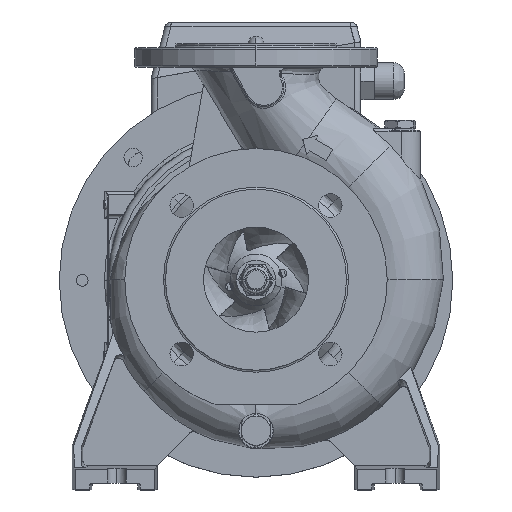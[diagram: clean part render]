
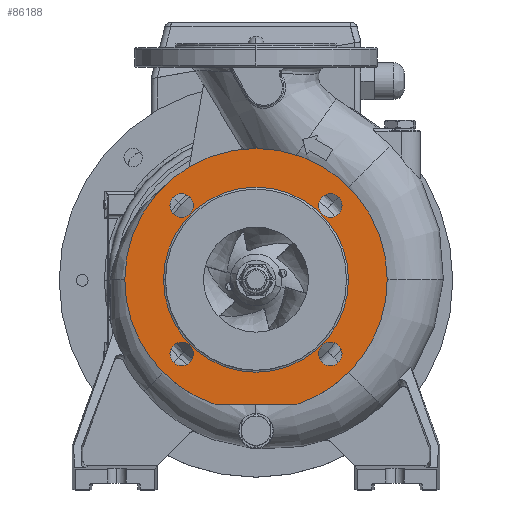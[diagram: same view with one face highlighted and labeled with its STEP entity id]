
A CAD part, top view. The second image highlights one B-rep face of the part: STEP entity #86188.
In plain terms, the highlighted planar face has unit normal (0, 0, 1).
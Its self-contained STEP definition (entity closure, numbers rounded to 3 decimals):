
#444 = DIRECTION ( 'NONE',  ( 0., 0., 1. ) ) ;
#927 = CARTESIAN_POINT ( 'NONE',  ( -47.569, -56.569, 97. ) ) ;
#1792 = VERTEX_POINT ( 'NONE', #20269 ) ;
#3043 = FACE_OUTER_BOUND ( 'NONE', #32500, .T. ) ;
#3193 = AXIS2_PLACEMENT_3D ( 'NONE', #49782, #71192, #28640 ) ;
#3739 = EDGE_LOOP ( 'NONE', ( #32356, #44044 ) ) ;
#3826 = EDGE_CURVE ( 'NONE', #15417, #1792, #81852, .T. ) ;
#4005 = VERTEX_POINT ( 'NONE', #87911 ) ;
#4208 = FACE_BOUND ( 'NONE', #76262, .T. ) ;
#4697 = DIRECTION ( 'NONE',  ( 1., 0., 0. ) ) ;
#6004 = VERTEX_POINT ( 'NONE', #18664 ) ;
#7691 = VERTEX_POINT ( 'NONE', #66332 ) ;
#8929 = CARTESIAN_POINT ( 'NONE',  ( 56.569, 56.569, 97. ) ) ;
#9372 = ORIENTED_EDGE ( 'NONE', *, *, #3826, .T. ) ;
#10088 = CARTESIAN_POINT ( 'NONE',  ( 56.569, -56.569, 97. ) ) ;
#10778 = ORIENTED_EDGE ( 'NONE', *, *, #88065, .T. ) ;
#11471 = ORIENTED_EDGE ( 'NONE', *, *, #23206, .F. ) ;
#11658 = DIRECTION ( 'NONE',  ( 0., 0., 1. ) ) ;
#12071 = FACE_BOUND ( 'NONE', #83872, .T. ) ;
#12297 = VECTOR ( 'NONE', #51473, 1000. ) ;
#13838 = CARTESIAN_POINT ( 'NONE',  ( 65.569, -56.569, 97. ) ) ;
#13987 = EDGE_CURVE ( 'NONE', #4005, #43056, #36189, .T. ) ;
#14428 = DIRECTION ( 'NONE',  ( 0., 0., 1. ) ) ;
#15260 = DIRECTION ( 'NONE',  ( 1., 0., 0. ) ) ;
#15417 = VERTEX_POINT ( 'NONE', #91272 ) ;
#15528 = AXIS2_PLACEMENT_3D ( 'NONE', #54577, #25585, #40035 ) ;
#16826 = EDGE_CURVE ( 'NONE', #43056, #4005, #28008, .T. ) ;
#17289 = DIRECTION ( 'NONE',  ( 1., 0., 0. ) ) ;
#17406 = CIRCLE ( 'NONE', #54562, 9. ) ;
#18664 = CARTESIAN_POINT ( 'NONE',  ( 100., 0., 97. ) ) ;
#18850 = DIRECTION ( 'NONE',  ( 0., 0., -1. ) ) ;
#20269 = CARTESIAN_POINT ( 'NONE',  ( 70.5, 0., 97. ) ) ;
#20972 = CARTESIAN_POINT ( 'NONE',  ( 56.569, -56.569, 97. ) ) ;
#21878 = AXIS2_PLACEMENT_3D ( 'NONE', #59944, #60271, #74780 ) ;
#22041 = VERTEX_POINT ( 'NONE', #66891 ) ;
#22605 = ORIENTED_EDGE ( 'NONE', *, *, #42262, .T. ) ;
#23206 = EDGE_CURVE ( 'NONE', #67701, #75814, #26682, .T. ) ;
#23700 = EDGE_CURVE ( 'NONE', #75814, #6004, #88794, .T. ) ;
#24404 = FACE_BOUND ( 'NONE', #27493, .T. ) ;
#25585 = DIRECTION ( 'NONE',  ( 0., 0., -1. ) ) ;
#26157 = VERTEX_POINT ( 'NONE', #90979 ) ;
#26682 = CIRCLE ( 'NONE', #84468, 100. ) ;
#26770 = EDGE_CURVE ( 'NONE', #45457, #26157, #17406, .T. ) ;
#27493 = EDGE_LOOP ( 'NONE', ( #37128, #73621 ) ) ;
#28008 = CIRCLE ( 'NONE', #60027, 9. ) ;
#28546 = CIRCLE ( 'NONE', #30214, 9. ) ;
#28640 = DIRECTION ( 'NONE',  ( -1., 0., 0. ) ) ;
#28888 = FACE_BOUND ( 'NONE', #3739, .T. ) ;
#29377 = CARTESIAN_POINT ( 'NONE',  ( -56.569, 56.569, 97. ) ) ;
#30054 = EDGE_CURVE ( 'NONE', #26157, #45457, #48662, .T. ) ;
#30214 = AXIS2_PLACEMENT_3D ( 'NONE', #20972, #444, #85848 ) ;
#31038 = DIRECTION ( 'NONE',  ( -1., 0., 0. ) ) ;
#32078 = CIRCLE ( 'NONE', #21878, 70.5 ) ;
#32356 = ORIENTED_EDGE ( 'NONE', *, *, #91921, .F. ) ;
#32500 = EDGE_LOOP ( 'NONE', ( #11471, #22605, #41513, #59373 ) ) ;
#32822 = DIRECTION ( 'NONE',  ( -1., 0., 0. ) ) ;
#33280 = DIRECTION ( 'NONE',  ( -1., 0., 0. ) ) ;
#36189 = CIRCLE ( 'NONE', #88332, 9. ) ;
#36608 = CARTESIAN_POINT ( 'NONE',  ( 70.5, -95., 97. ) ) ;
#37128 = ORIENTED_EDGE ( 'NONE', *, *, #30054, .F. ) ;
#37983 = CARTESIAN_POINT ( 'NONE',  ( 0., 0., 97. ) ) ;
#38598 = DIRECTION ( 'NONE',  ( 0., 0., -1. ) ) ;
#38616 = AXIS2_PLACEMENT_3D ( 'NONE', #55216, #39450, #32822 ) ;
#38684 = DIRECTION ( 'NONE',  ( 0., 0., 1. ) ) ;
#39450 = DIRECTION ( 'NONE',  ( 0., 0., -1. ) ) ;
#40035 = DIRECTION ( 'NONE',  ( -1., 0., 0. ) ) ;
#40860 = CIRCLE ( 'NONE', #48689, 9. ) ;
#41513 = ORIENTED_EDGE ( 'NONE', *, *, #51794, .F. ) ;
#42181 = EDGE_CURVE ( 'NONE', #22041, #90791, #78775, .T. ) ;
#42262 = EDGE_CURVE ( 'NONE', #67701, #7691, #50576, .T. ) ;
#43016 = AXIS2_PLACEMENT_3D ( 'NONE', #43245, #57719, #58338 ) ;
#43041 = DIRECTION ( 'NONE',  ( 1., 0., 0. ) ) ;
#43056 = VERTEX_POINT ( 'NONE', #67344 ) ;
#43245 = CARTESIAN_POINT ( 'NONE',  ( -56.569, -56.569, 97. ) ) ;
#44044 = ORIENTED_EDGE ( 'NONE', *, *, #42181, .F. ) ;
#45457 = VERTEX_POINT ( 'NONE', #72814 ) ;
#46297 = AXIS2_PLACEMENT_3D ( 'NONE', #8929, #59258, #66846 ) ;
#47861 = CARTESIAN_POINT ( 'NONE',  ( -56.569, 56.569, 97. ) ) ;
#48662 = CIRCLE ( 'NONE', #46297, 9. ) ;
#48689 = AXIS2_PLACEMENT_3D ( 'NONE', #57525, #14428, #43041 ) ;
#49782 = CARTESIAN_POINT ( 'NONE',  ( 70.5, 0., 97. ) ) ;
#50549 = VERTEX_POINT ( 'NONE', #13838 ) ;
#50576 = LINE ( 'NONE', #36608, #12297 ) ;
#50888 = CIRCLE ( 'NONE', #58675, 9. ) ;
#51372 = AXIS2_PLACEMENT_3D ( 'NONE', #61973, #18850, #33280 ) ;
#51473 = DIRECTION ( 'NONE',  ( 1., 0., 0. ) ) ;
#51794 = EDGE_CURVE ( 'NONE', #6004, #7691, #56838, .T. ) ;
#52714 = EDGE_CURVE ( 'NONE', #50549, #65923, #28546, .T. ) ;
#53752 = DIRECTION ( 'NONE',  ( 0., 0., 1. ) ) ;
#54562 = AXIS2_PLACEMENT_3D ( 'NONE', #54668, #53752, #60342 ) ;
#54577 = CARTESIAN_POINT ( 'NONE',  ( 0., 0., 97. ) ) ;
#54668 = CARTESIAN_POINT ( 'NONE',  ( 56.569, 56.569, 97. ) ) ;
#55216 = CARTESIAN_POINT ( 'NONE',  ( 0., 0., 97. ) ) ;
#56838 = CIRCLE ( 'NONE', #51372, 100. ) ;
#57525 = CARTESIAN_POINT ( 'NONE',  ( -56.569, -56.569, 97. ) ) ;
#57719 = DIRECTION ( 'NONE',  ( 0., 0., 1. ) ) ;
#58338 = DIRECTION ( 'NONE',  ( 1., 0., 0. ) ) ;
#58487 = CARTESIAN_POINT ( 'NONE',  ( -31.225, -95., 97. ) ) ;
#58675 = AXIS2_PLACEMENT_3D ( 'NONE', #10088, #38684, #17289 ) ;
#59258 = DIRECTION ( 'NONE',  ( 0., 0., 1. ) ) ;
#59373 = ORIENTED_EDGE ( 'NONE', *, *, #23700, .F. ) ;
#59944 = CARTESIAN_POINT ( 'NONE',  ( 0., 0., 97. ) ) ;
#60011 = EDGE_LOOP ( 'NONE', ( #65295, #65123 ) ) ;
#60027 = AXIS2_PLACEMENT_3D ( 'NONE', #29377, #72545, #15260 ) ;
#60271 = DIRECTION ( 'NONE',  ( 0., 0., -1. ) ) ;
#60342 = DIRECTION ( 'NONE',  ( 1., 0., 0. ) ) ;
#61973 = CARTESIAN_POINT ( 'NONE',  ( 0., 0., 97. ) ) ;
#65123 = ORIENTED_EDGE ( 'NONE', *, *, #16826, .F. ) ;
#65295 = ORIENTED_EDGE ( 'NONE', *, *, #13987, .F. ) ;
#65923 = VERTEX_POINT ( 'NONE', #78505 ) ;
#66332 = CARTESIAN_POINT ( 'NONE',  ( 31.225, -95., 97. ) ) ;
#66846 = DIRECTION ( 'NONE',  ( 1., 0., 0. ) ) ;
#66891 = CARTESIAN_POINT ( 'NONE',  ( -65.569, -56.569, 97. ) ) ;
#67344 = CARTESIAN_POINT ( 'NONE',  ( -65.569, 56.569, 97. ) ) ;
#67701 = VERTEX_POINT ( 'NONE', #58487 ) ;
#71192 = DIRECTION ( 'NONE',  ( 0., 0., -1. ) ) ;
#71685 = CARTESIAN_POINT ( 'NONE',  ( -100., 0., 97. ) ) ;
#72545 = DIRECTION ( 'NONE',  ( 0., 0., 1. ) ) ;
#72814 = CARTESIAN_POINT ( 'NONE',  ( 47.569, 56.569, 97. ) ) ;
#73621 = ORIENTED_EDGE ( 'NONE', *, *, #26770, .F. ) ;
#74452 = EDGE_CURVE ( 'NONE', #65923, #50549, #50888, .T. ) ;
#74780 = DIRECTION ( 'NONE',  ( -1., 0., 0. ) ) ;
#75814 = VERTEX_POINT ( 'NONE', #71685 ) ;
#76262 = EDGE_LOOP ( 'NONE', ( #9372, #10778 ) ) ;
#77821 = PLANE ( 'NONE',  #3193 ) ;
#78505 = CARTESIAN_POINT ( 'NONE',  ( 47.569, -56.569, 97. ) ) ;
#78775 = CIRCLE ( 'NONE', #43016, 9. ) ;
#81739 = ORIENTED_EDGE ( 'NONE', *, *, #74452, .F. ) ;
#81852 = CIRCLE ( 'NONE', #15528, 70.5 ) ;
#83872 = EDGE_LOOP ( 'NONE', ( #85200, #81739 ) ) ;
#84468 = AXIS2_PLACEMENT_3D ( 'NONE', #37983, #38598, #31038 ) ;
#85200 = ORIENTED_EDGE ( 'NONE', *, *, #52714, .F. ) ;
#85848 = DIRECTION ( 'NONE',  ( 1., 0., 0. ) ) ;
#86188 = ADVANCED_FACE ( 'NONE', ( #86396, #28888, #12071, #24404, #4208, #3043 ), #77821, .F. ) ;
#86396 = FACE_BOUND ( 'NONE', #60011, .T. ) ;
#87911 = CARTESIAN_POINT ( 'NONE',  ( -47.569, 56.569, 97. ) ) ;
#88065 = EDGE_CURVE ( 'NONE', #1792, #15417, #32078, .T. ) ;
#88332 = AXIS2_PLACEMENT_3D ( 'NONE', #47861, #11658, #4697 ) ;
#88794 = CIRCLE ( 'NONE', #38616, 100. ) ;
#90791 = VERTEX_POINT ( 'NONE', #927 ) ;
#90979 = CARTESIAN_POINT ( 'NONE',  ( 65.569, 56.569, 97. ) ) ;
#91272 = CARTESIAN_POINT ( 'NONE',  ( -70.5, 0., 97. ) ) ;
#91921 = EDGE_CURVE ( 'NONE', #90791, #22041, #40860, .T. ) ;
